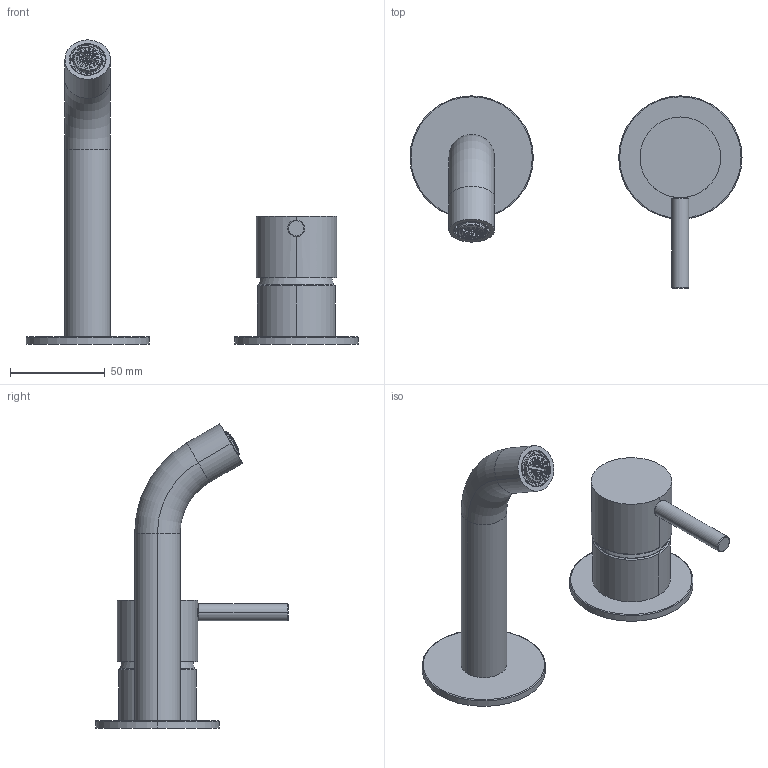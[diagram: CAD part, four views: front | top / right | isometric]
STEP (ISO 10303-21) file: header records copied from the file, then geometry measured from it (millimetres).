
FILE_DESCRIPTION((''),'2;1');
FILE_NAME('50000E809B000000_SW0001','2025-03-11T08:10:47',('cristian.dorz'),(''),'CREO PARAMETRIC BY PTC INC, 2022281','CREO PARAMETRIC BY PTC INC, 2022281','');
FILE_SCHEMA(('AUTOMOTIVE_DESIGN { 1 0 10303 214 1 1 1 1 }'));
Length unit declared in the file: millimetre
Products named in the file (1): 50000E809B000000_SW0001
Bounding box: 175 x 101.47 x 160.39 mm (x, y, z)
Volume: 182839.1 mm3; surface area: 41045.7 mm2
Topology: 2 solids, 3 shells, 316 faces, 795 edges, 522 vertices
Faces by surface type: plane 247, cylinder 39, torus 20, cone 4, sphere 4, bspline 2
Entity records: 10941 total; most frequent: CARTESIAN_POINT 2492, DIRECTION 1760, ORIENTED_EDGE 1590, EDGE_CURVE 795, AXIS2_PLACEMENT_3D 648, VERTEX_POINT 522, VECTOR 461, LINE 461
